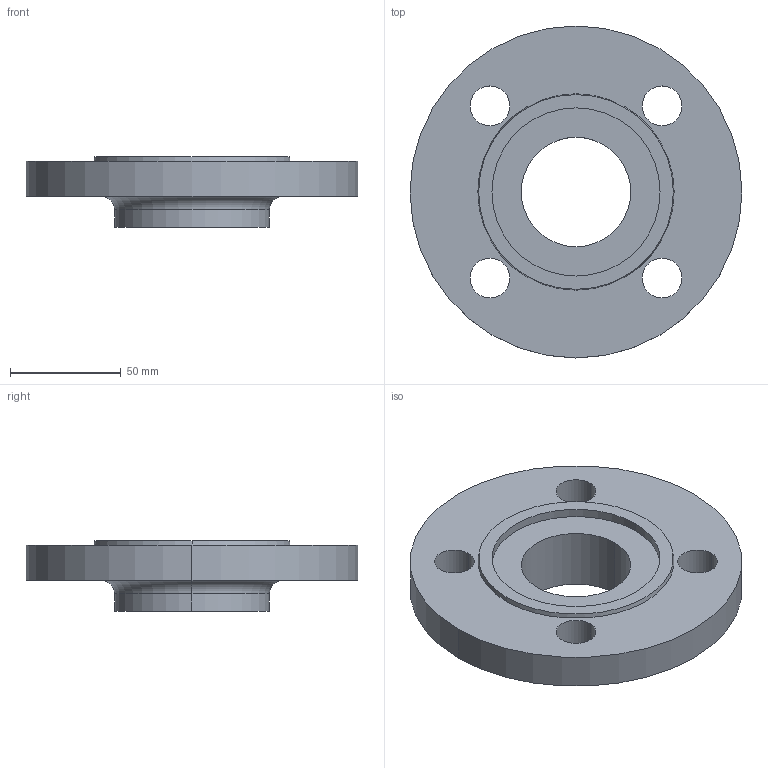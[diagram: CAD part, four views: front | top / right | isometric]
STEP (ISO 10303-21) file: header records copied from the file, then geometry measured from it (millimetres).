
FILE_DESCRIPTION (( 'STEP AP214' ), '1' );
FILE_NAME ('PN40 DN40 Type 12 - Type F Face.STEP', '2018-12-30T01:40:47', ( '' ), ( '' ), 'SwSTEP 2.0', 'SolidWorks 2019', '' );
FILE_SCHEMA (( 'AUTOMOTIVE_DESIGN' ));
Length unit declared in the file: millimetre
Products named in the file (1): PN40 DN40 Type 12 - Type F Face
Bounding box: 150 x 150 x 32 mm (x, y, z)
Volume: 262332 mm3; surface area: 48920.8 mm2
Topology: 1 solids, 1 shells, 25 faces, 58 edges, 38 vertices
Faces by surface type: cylinder 16, plane 5, torus 2, cone 2
Entity records: 790 total; most frequent: DIRECTION 150, CARTESIAN_POINT 122, ORIENTED_EDGE 116, AXIS2_PLACEMENT_3D 66, EDGE_CURVE 58, CIRCLE 40, EDGE_LOOP 38, VERTEX_POINT 38
